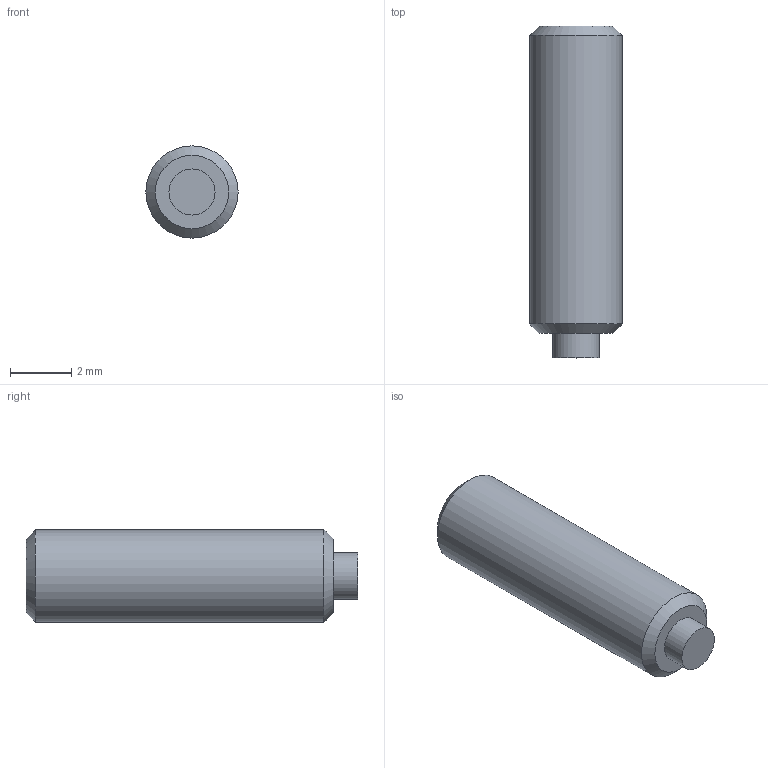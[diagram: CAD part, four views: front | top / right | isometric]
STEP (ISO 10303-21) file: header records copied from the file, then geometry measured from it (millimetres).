
FILE_DESCRIPTION( ( 'STEP AP203' ), '1' );
FILE_NAME( 'C:/Temp/Ganter_Step_05_03_2020/data/3_2/gn913_3/Grub screw GN 913.3-M3-10-KU.stp', '2020-03-13T05:35:32', ( 'License CC BY-ND 4.0' ), ( 'CADENAS' ), ' ', 'PARTsolutions', ' ' );
FILE_SCHEMA( ( 'CONFIG_CONTROL_DESIGN' ) );
Length unit declared in the file: millimetre
Products named in the file (1): _Grub screw GN 913.3-M3-10-KU
Bounding box: 3 x 10.8 x 3 mm (x, y, z)
Volume: 68.4 mm3; surface area: 116.3 mm2
Topology: 1 solids, 1 shells, 14 faces, 28 edges, 18 vertices
Faces by surface type: plane 10, cylinder 2, cone 2
Full cylindrical faces by diameter (mm): 1.5 x1, 3 x1
Entity records: 386 total; most frequent: DIRECTION 60, CARTESIAN_POINT 57, ORIENTED_EDGE 48, EDGE_CURVE 24, AXIS2_PLACEMENT_3D 21, EDGE_LOOP 20, VERTEX_POINT 18, LINE 18
